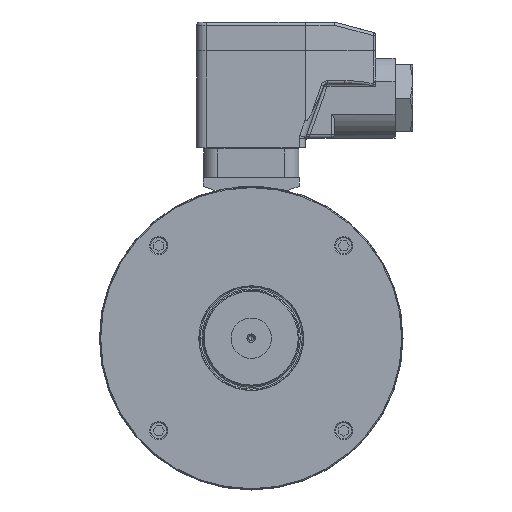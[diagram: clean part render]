
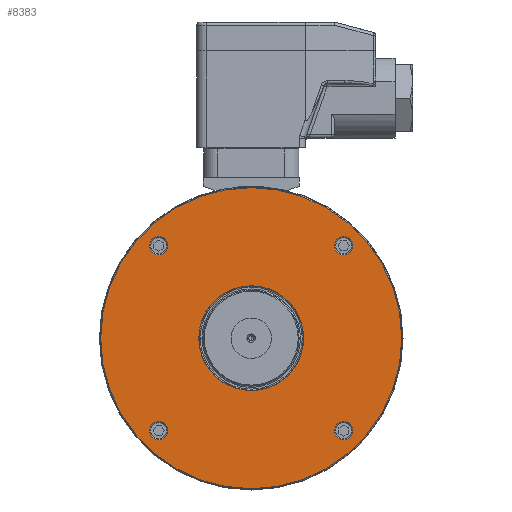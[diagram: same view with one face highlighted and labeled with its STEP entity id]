
A CAD part, left-side view. The second image highlights one B-rep face of the part: STEP entity #8383.
In plain terms, the highlighted planar face has unit normal (-1, 0, 0).
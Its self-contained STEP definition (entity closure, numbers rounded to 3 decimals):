
#241 = CARTESIAN_POINT ( 'NONE',  ( -140., 28.921, -31.771 ) ) ;
#807 = CARTESIAN_POINT ( 'NONE',  ( -140., 28.921, 31.771 ) ) ;
#813 = CARTESIAN_POINT ( 'NONE',  ( -140., -47.1, 0. ) ) ;
#818 = CARTESIAN_POINT ( 'NONE',  ( -140., 47.1, 0. ) ) ;
#822 = CARTESIAN_POINT ( 'NONE',  ( -140., -16.4, 0. ) ) ;
#843 = CARTESIAN_POINT ( 'NONE',  ( -140., 0., 0. ) ) ;
#844 = DIRECTION ( 'NONE',  ( 0., 1., 0. ) ) ;
#845 = DIRECTION ( 'NONE',  ( 1., 0., 0. ) ) ;
#846 = CARTESIAN_POINT ( 'NONE',  ( -140., 0., 0. ) ) ;
#847 = AXIS2_PLACEMENT_3D ( 'NONE', #846, #845, #844 ) ;
#850 = AXIS2_PLACEMENT_3D ( 'NONE', #843, #911, #910 ) ;
#856 = CARTESIAN_POINT ( 'NONE',  ( -140., 28.921, 26.071 ) ) ;
#860 = CIRCLE ( 'NONE', #847, 16.4 ) ;
#900 = CARTESIAN_POINT ( 'NONE',  ( -140., 16.4, 0. ) ) ;
#910 = DIRECTION ( 'NONE',  ( 0., 1., 0. ) ) ;
#911 = DIRECTION ( 'NONE',  ( 1., 0., 0. ) ) ;
#926 = CIRCLE ( 'NONE', #850, 47.1 ) ;
#1099 = DIRECTION ( 'NONE',  ( 0., -1., 0. ) ) ;
#1100 = DIRECTION ( 'NONE',  ( 1., 0., 0. ) ) ;
#1101 = AXIS2_PLACEMENT_3D ( 'NONE', #1109, #1100, #1099 ) ;
#1109 = CARTESIAN_POINT ( 'NONE',  ( -140., 28.921, 28.921 ) ) ;
#1118 = CIRCLE ( 'NONE', #1101, 2.85 ) ;
#6385 = EDGE_CURVE ( 'NONE', #6699, #6703, #20283, .T. ) ;
#6612 = VERTEX_POINT ( 'NONE', #241 ) ;
#6688 = EDGE_CURVE ( 'NONE', #6691, #6612, #24293, .T. ) ;
#6691 = VERTEX_POINT ( 'NONE', #24379 ) ;
#6693 = VERTEX_POINT ( 'NONE', #24266 ) ;
#6694 = EDGE_CURVE ( 'NONE', #6827, #6693, #22288, .T. ) ;
#6699 = VERTEX_POINT ( 'NONE', #23592 ) ;
#6703 = VERTEX_POINT ( 'NONE', #23570 ) ;
#6827 = VERTEX_POINT ( 'NONE', #27614 ) ;
#7045 = VERTEX_POINT ( 'NONE', #822 ) ;
#7049 = VERTEX_POINT ( 'NONE', #818 ) ;
#7052 = VERTEX_POINT ( 'NONE', #813 ) ;
#7058 = VERTEX_POINT ( 'NONE', #807 ) ;
#7064 = VERTEX_POINT ( 'NONE', #856 ) ;
#7066 = EDGE_CURVE ( 'NONE', #7075, #7045, #860, .T. ) ;
#7073 = EDGE_CURVE ( 'NONE', #7052, #7049, #926, .T. ) ;
#7075 = VERTEX_POINT ( 'NONE', #900 ) ;
#7126 = EDGE_CURVE ( 'NONE', #7058, #7064, #1118, .T. ) ;
#8383 = ADVANCED_FACE ( 'NONE', ( #23240, #23299, #23292, #23264, #23241, #23243 ), #23298, .T. ) ;
#8384 = EDGE_CURVE ( 'NONE', #6612, #6691, #23288, .T. ) ;
#8385 = ORIENTED_EDGE ( 'NONE', *, *, #6385, .T. ) ;
#8386 = ORIENTED_EDGE ( 'NONE', *, *, #8387, .T. ) ;
#8387 = EDGE_CURVE ( 'NONE', #6693, #6827, #23290, .T. ) ;
#8388 = ORIENTED_EDGE ( 'NONE', *, *, #8395, .T. ) ;
#8389 = EDGE_LOOP ( 'NONE', ( #8391, #8386 ) ) ;
#8391 = ORIENTED_EDGE ( 'NONE', *, *, #6694, .T. ) ;
#8393 = EDGE_LOOP ( 'NONE', ( #8449, #8447 ) ) ;
#8394 = ORIENTED_EDGE ( 'NONE', *, *, #7073, .F. ) ;
#8395 = EDGE_CURVE ( 'NONE', #6703, #6699, #23272, .T. ) ;
#8399 = ORIENTED_EDGE ( 'NONE', *, *, #7066, .T. ) ;
#8400 = EDGE_CURVE ( 'NONE', #7049, #7052, #23281, .T. ) ;
#8401 = EDGE_CURVE ( 'NONE', #7045, #7075, #23327, .T. ) ;
#8403 = ORIENTED_EDGE ( 'NONE', *, *, #8401, .T. ) ;
#8412 = EDGE_LOOP ( 'NONE', ( #8385, #8388 ) ) ;
#8445 = EDGE_CURVE ( 'NONE', #7064, #7058, #23396, .T. ) ;
#8446 = ORIENTED_EDGE ( 'NONE', *, *, #7126, .T. ) ;
#8447 = ORIENTED_EDGE ( 'NONE', *, *, #8384, .T. ) ;
#8448 = EDGE_LOOP ( 'NONE', ( #8446, #8450 ) ) ;
#8449 = ORIENTED_EDGE ( 'NONE', *, *, #6688, .T. ) ;
#8450 = ORIENTED_EDGE ( 'NONE', *, *, #8445, .T. ) ;
#8451 = EDGE_LOOP ( 'NONE', ( #8394, #8480 ) ) ;
#8477 = EDGE_LOOP ( 'NONE', ( #8399, #8403 ) ) ;
#8480 = ORIENTED_EDGE ( 'NONE', *, *, #8400, .F. ) ;
#20224 = CARTESIAN_POINT ( 'NONE',  ( -140., -28.921, 28.921 ) ) ;
#20225 = AXIS2_PLACEMENT_3D ( 'NONE', #20224, #20277, #20276 ) ;
#20276 = DIRECTION ( 'NONE',  ( 0., -1., 0. ) ) ;
#20277 = DIRECTION ( 'NONE',  ( 1., 0., 0. ) ) ;
#20283 = CIRCLE ( 'NONE', #20225, 2.85 ) ;
#22191 = DIRECTION ( 'NONE',  ( 0., -1., 0. ) ) ;
#22288 = CIRCLE ( 'NONE', #22405, 2.85 ) ;
#22295 = CARTESIAN_POINT ( 'NONE',  ( -140., -28.921, -28.921 ) ) ;
#22385 = DIRECTION ( 'NONE',  ( 1., 0., 0. ) ) ;
#22405 = AXIS2_PLACEMENT_3D ( 'NONE', #22295, #22385, #22191 ) ;
#23240 = FACE_BOUND ( 'NONE', #8412, .T. ) ;
#23241 = FACE_OUTER_BOUND ( 'NONE', #8451, .T. ) ;
#23243 = FACE_BOUND ( 'NONE', #8477, .T. ) ;
#23245 = CARTESIAN_POINT ( 'NONE',  ( -140., 16.4, 0. ) ) ;
#23264 = FACE_BOUND ( 'NONE', #8448, .T. ) ;
#23269 = DIRECTION ( 'NONE',  ( 0., -1., 0. ) ) ;
#23270 = DIRECTION ( 'NONE',  ( 1., 0., 0. ) ) ;
#23272 = CIRCLE ( 'NONE', #23279, 2.85 ) ;
#23273 = CARTESIAN_POINT ( 'NONE',  ( -140., 0., 0. ) ) ;
#23274 = DIRECTION ( 'NONE',  ( 0., -1., 0. ) ) ;
#23275 = DIRECTION ( 'NONE',  ( 1., 0., 0. ) ) ;
#23276 = CARTESIAN_POINT ( 'NONE',  ( -140., -28.921, -28.921 ) ) ;
#23277 = AXIS2_PLACEMENT_3D ( 'NONE', #23276, #23275, #23274 ) ;
#23278 = CARTESIAN_POINT ( 'NONE',  ( -140., -28.921, 28.921 ) ) ;
#23279 = AXIS2_PLACEMENT_3D ( 'NONE', #23278, #23270, #23269 ) ;
#23281 = CIRCLE ( 'NONE', #23289, 47.1 ) ;
#23282 = DIRECTION ( 'NONE',  ( 0., -1., 0. ) ) ;
#23283 = DIRECTION ( 'NONE',  ( 1., 0., 0. ) ) ;
#23284 = AXIS2_PLACEMENT_3D ( 'NONE', #23286, #23283, #23282 ) ;
#23285 = DIRECTION ( 'NONE',  ( 1., 0., 0. ) ) ;
#23286 = CARTESIAN_POINT ( 'NONE',  ( -140., 28.921, -28.921 ) ) ;
#23288 = CIRCLE ( 'NONE', #23284, 2.85 ) ;
#23289 = AXIS2_PLACEMENT_3D ( 'NONE', #23273, #23285, #23319 ) ;
#23290 = CIRCLE ( 'NONE', #23277, 2.85 ) ;
#23291 = AXIS2_PLACEMENT_3D ( 'NONE', #23245, #23293, #23300 ) ;
#23292 = FACE_BOUND ( 'NONE', #8393, .T. ) ;
#23293 = DIRECTION ( 'NONE',  ( -1., 0., 0. ) ) ;
#23298 = PLANE ( 'NONE',  #23291 ) ;
#23299 = FACE_BOUND ( 'NONE', #8389, .T. ) ;
#23300 = DIRECTION ( 'NONE',  ( 0., 1., 0. ) ) ;
#23314 = DIRECTION ( 'NONE',  ( 0., 1., 0. ) ) ;
#23319 = DIRECTION ( 'NONE',  ( 0., 1., 0. ) ) ;
#23322 = CARTESIAN_POINT ( 'NONE',  ( -140., 0., 0. ) ) ;
#23324 = DIRECTION ( 'NONE',  ( 1., 0., 0. ) ) ;
#23327 = CIRCLE ( 'NONE', #23332, 16.4 ) ;
#23332 = AXIS2_PLACEMENT_3D ( 'NONE', #23322, #23324, #23314 ) ;
#23337 = AXIS2_PLACEMENT_3D ( 'NONE', #23392, #23386, #23385 ) ;
#23385 = DIRECTION ( 'NONE',  ( 0., -1., 0. ) ) ;
#23386 = DIRECTION ( 'NONE',  ( 1., 0., 0. ) ) ;
#23392 = CARTESIAN_POINT ( 'NONE',  ( -140., 28.921, 28.921 ) ) ;
#23396 = CIRCLE ( 'NONE', #23337, 2.85 ) ;
#23570 = CARTESIAN_POINT ( 'NONE',  ( -140., -28.921, 26.071 ) ) ;
#23592 = CARTESIAN_POINT ( 'NONE',  ( -140., -28.921, 31.771 ) ) ;
#24259 = DIRECTION ( 'NONE',  ( 1., 0., 0. ) ) ;
#24266 = CARTESIAN_POINT ( 'NONE',  ( -140., -28.921, -31.771 ) ) ;
#24293 = CIRCLE ( 'NONE', #24442, 2.85 ) ;
#24378 = CARTESIAN_POINT ( 'NONE',  ( -140., 28.921, -28.921 ) ) ;
#24379 = CARTESIAN_POINT ( 'NONE',  ( -140., 28.921, -26.071 ) ) ;
#24440 = DIRECTION ( 'NONE',  ( 0., -1., 0. ) ) ;
#24442 = AXIS2_PLACEMENT_3D ( 'NONE', #24378, #24259, #24440 ) ;
#27614 = CARTESIAN_POINT ( 'NONE',  ( -140., -28.921, -26.071 ) ) ;
